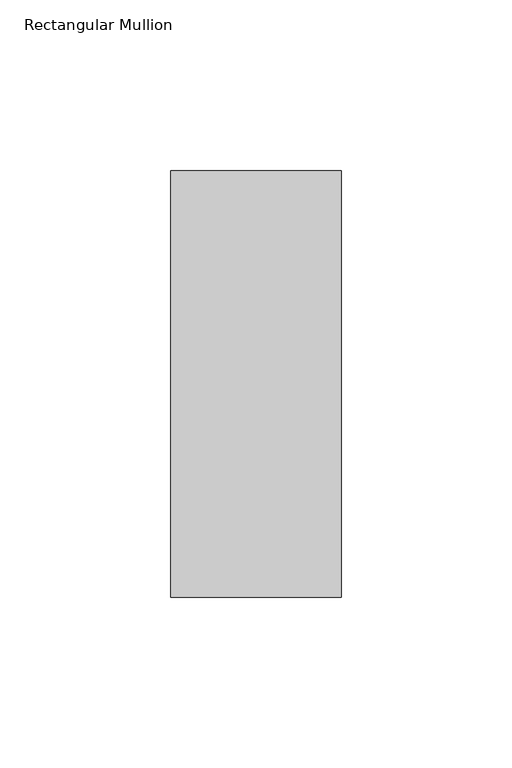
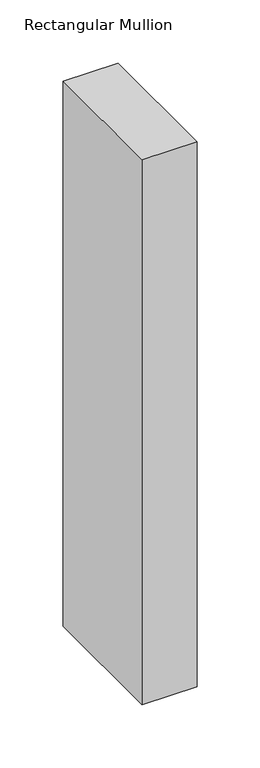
"""IFC4 building model written with IfcOpenShell, lengths in millimetres: member geometry, Rectangular Mullion : DucoSun Cubic Design profile 50x125 for louvre 300."""

from ifc_helpers import new_model, si_unit, frame, origin, place, context, project, spatial, polyline, outline, extrude, source, transform, mapped, element, save


def rectangular_mullion_025464f0(model_context):
    return source(origin(), model_context, "Body", "SweptSolid", [
        extrude(outline(polyline([(0.0, 87.5), (-50.0, 87.5), (-50.0, 212.5), (0.0, 212.5), (0.0, 87.5)])), frame((0.0, 0.0, -525.5000002), z_axis=(0.0, 0.0, 1.0), x_axis=(1.0, 0.0, 0.0)), (0.0, 0.0, 1.0), 525.5000002),
    ])


if __name__ == "__main__":
    model = new_model("IFC4")
    model_context = context("Model", 3, world=origin())
    ifc_project = project(units=[si_unit("LENGTHUNIT", "METRE", prefix="MILLI")], contexts=[model_context])
    site = spatial("IfcSite", under=ifc_project)
    building = spatial("IfcBuilding", under=site)
    placement = place(None, origin())
    rectangular_mullion_shape = rectangular_mullion_025464f0(model_context)
    element("IfcMember", 1, ObjectType="Rectangular Mullion : DucoSun Cubic Design profile 50x125 for louvre 300", at=placement, inside=building, context=model_context, shape_type="MappedRepresentation", body=[
        mapped(rectangular_mullion_shape, transform((0.0, 0.0, 0.0), x_axis=(1.0, 0.0, 0.0), y_axis=(0.0, 1.0, 0.0), z_axis=(0.0, 0.0, 1.0))),
    ])
    save(model, "model.ifc")
